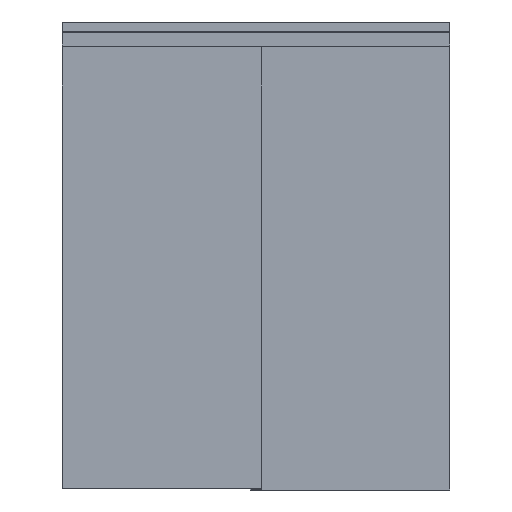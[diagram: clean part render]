
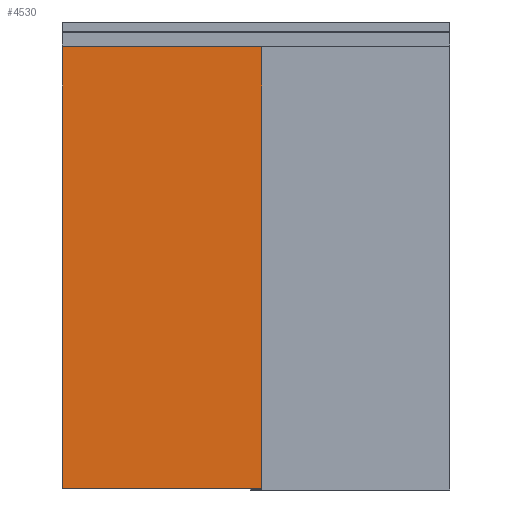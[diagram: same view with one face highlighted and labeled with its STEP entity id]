
A CAD part, front view. The second image highlights one B-rep face of the part: STEP entity #4530.
In plain terms, the highlighted planar face has unit normal (0, -1, 0).
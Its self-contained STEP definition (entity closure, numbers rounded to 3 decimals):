
#4530=ADVANCED_FACE('',(#9181),#9182,.T.);
#9181=FACE_OUTER_BOUND('',#13850,.T.);
#9182=PLANE('',#13851);
#13850=EDGE_LOOP('',(#26567,#26568,#26569,#26570));
#13851=AXIS2_PLACEMENT_3D('',#26571,#26572,#26573);
#26567=ORIENTED_EDGE('',*,*,#32846,.T.);
#26568=ORIENTED_EDGE('',*,*,#32803,.F.);
#26569=ORIENTED_EDGE('',*,*,#32842,.T.);
#26570=ORIENTED_EDGE('',*,*,#32824,.T.);
#26571=CARTESIAN_POINT('',(250.0,-20.0,7.));
#26572=DIRECTION('',(0.0,-1.0,0.0));
#26573=DIRECTION('',(1.0,0.0,0.0));
#32803=EDGE_CURVE('',#40471,#40473,#40474,.T.);
#32824=EDGE_CURVE('',#40500,#40498,#40501,.T.);
#32842=EDGE_CURVE('',#40471,#40500,#40525,.T.);
#32846=EDGE_CURVE('',#40498,#40473,#40529,.T.);
#40471=VERTEX_POINT('',#51370);
#40473=VERTEX_POINT('',#51373);
#40474=LINE('',#51374,#51375);
#40498=VERTEX_POINT('',#51408);
#40500=VERTEX_POINT('',#51411);
#40501=LINE('',#51412,#51413);
#40525=LINE('',#51449,#51450);
#40529=LINE('',#51455,#51456);
#51370=CARTESIAN_POINT('',(0.0,-20.0,7.));
#51373=CARTESIAN_POINT('',(0.0,-20.0,2299.5));
#51374=CARTESIAN_POINT('',(0.0,-20.0,7.));
#51375=VECTOR('',#58107,1.0);
#51408=CARTESIAN_POINT('',(1030.0,-20.0,2299.5));
#51411=CARTESIAN_POINT('',(1030.0,-20.0,7.));
#51412=CARTESIAN_POINT('',(1030.0,-20.0,7.));
#51413=VECTOR('',#58127,1.0);
#51449=CARTESIAN_POINT('',(0.0,-20.0,7.));
#51450=VECTOR('',#58140,1.0);
#51455=CARTESIAN_POINT('',(0.0,-20.0,2299.5));
#51456=VECTOR('',#58142,1.0);
#58107=DIRECTION('',(0.0,0.0,1.0));
#58127=DIRECTION('',(0.0,0.0,1.0));
#58140=DIRECTION('',(1.0,0.0,0.0));
#58142=DIRECTION('',(-1.0,0.0,0.0));
